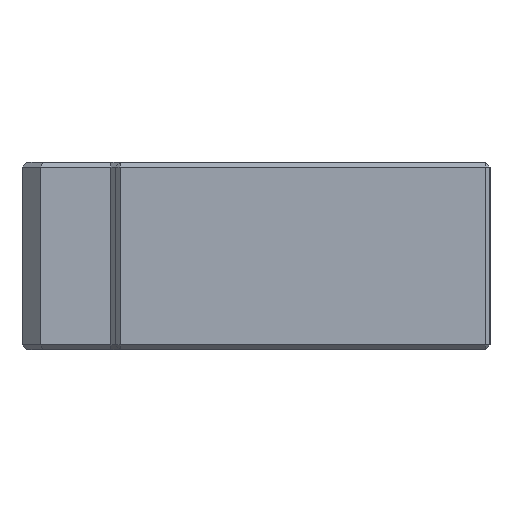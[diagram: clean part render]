
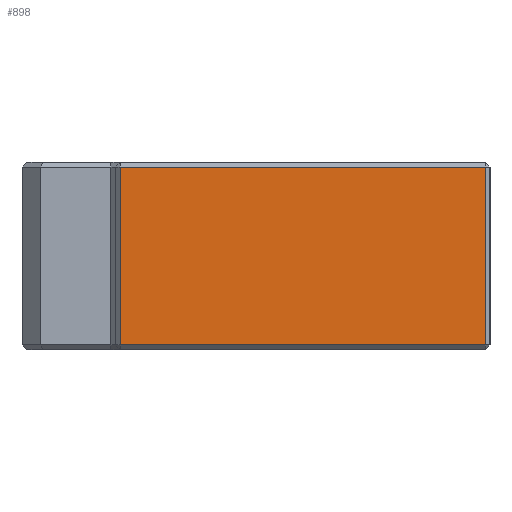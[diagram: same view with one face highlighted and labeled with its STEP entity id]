
A CAD part, left-side view. The second image highlights one B-rep face of the part: STEP entity #898.
In plain terms, the highlighted planar face has unit normal (-1, 0, 0).
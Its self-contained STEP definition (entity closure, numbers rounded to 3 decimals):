
#898 = ADVANCED_FACE ( 'NONE', ( #3682 ), #3680, .F. ) ;
#899 = EDGE_LOOP ( 'NONE', ( #900, #943, #946, #904 ) ) ;
#900 = ORIENTED_EDGE ( 'NONE', *, *, #901, .T. ) ;
#901 = EDGE_CURVE ( 'NONE', #902, #903, #3547, .T. ) ;
#902 = VERTEX_POINT ( 'NONE', #3522 ) ;
#903 = VERTEX_POINT ( 'NONE', #3521 ) ;
#904 = ORIENTED_EDGE ( 'NONE', *, *, #905, .T. ) ;
#905 = EDGE_CURVE ( 'NONE', #948, #902, #3520, .T. ) ;
#943 = ORIENTED_EDGE ( 'NONE', *, *, #944, .T. ) ;
#944 = EDGE_CURVE ( 'NONE', #903, #945, #3574, .T. ) ;
#945 = VERTEX_POINT ( 'NONE', #3570 ) ;
#946 = ORIENTED_EDGE ( 'NONE', *, *, #947, .T. ) ;
#947 = EDGE_CURVE ( 'NONE', #945, #948, #3569, .T. ) ;
#948 = VERTEX_POINT ( 'NONE', #3565 ) ;
#3517 = DIRECTION ( 'NONE',  ( 0., 0., -1. ) ) ;
#3518 = VECTOR ( 'NONE', #3517, 1000. ) ;
#3519 = CARTESIAN_POINT ( 'NONE',  ( -40., 39.5, 10. ) ) ;
#3520 = LINE ( 'NONE', #3519, #3518 ) ;
#3521 = CARTESIAN_POINT ( 'NONE',  ( -40., 0.5, -9.5 ) ) ;
#3522 = CARTESIAN_POINT ( 'NONE',  ( -40., 39.5, -9.5 ) ) ;
#3523 = DIRECTION ( 'NONE',  ( 0., -1., 0. ) ) ;
#3524 = VECTOR ( 'NONE', #3523, 1000. ) ;
#3525 = CARTESIAN_POINT ( 'NONE',  ( -40., 0., -9.5 ) ) ;
#3543 = DIRECTION ( 'NONE',  ( 0., 1., 0. ) ) ;
#3544 = DIRECTION ( 'NONE',  ( 1., 0., 0. ) ) ;
#3545 = CARTESIAN_POINT ( 'NONE',  ( -40., 0., 10. ) ) ;
#3546 = AXIS2_PLACEMENT_3D ( 'NONE', #3545, #3544, #3543 ) ;
#3547 = LINE ( 'NONE', #3525, #3524 ) ;
#3565 = CARTESIAN_POINT ( 'NONE',  ( -40., 39.5, 9.5 ) ) ;
#3566 = DIRECTION ( 'NONE',  ( 0., 1., 0. ) ) ;
#3567 = VECTOR ( 'NONE', #3566, 1000. ) ;
#3568 = CARTESIAN_POINT ( 'NONE',  ( -40., 0., 9.5 ) ) ;
#3569 = LINE ( 'NONE', #3568, #3567 ) ;
#3570 = CARTESIAN_POINT ( 'NONE',  ( -40., 0.5, 9.5 ) ) ;
#3571 = DIRECTION ( 'NONE',  ( 0., 0., 1. ) ) ;
#3572 = VECTOR ( 'NONE', #3571, 1000. ) ;
#3573 = CARTESIAN_POINT ( 'NONE',  ( -40., 0.5, 10. ) ) ;
#3574 = LINE ( 'NONE', #3573, #3572 ) ;
#3680 = PLANE ( 'NONE',  #3546 ) ;
#3682 = FACE_OUTER_BOUND ( 'NONE', #899, .T. ) ;
